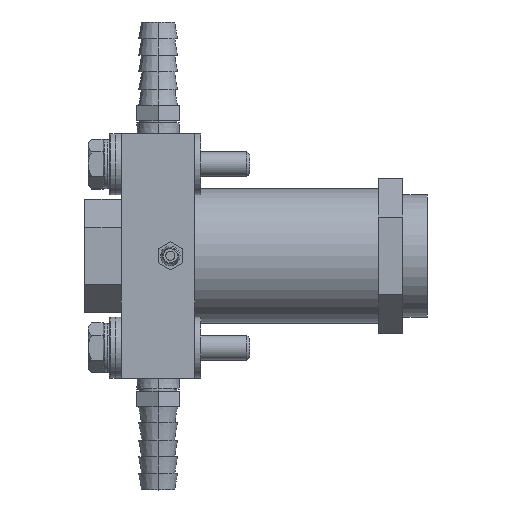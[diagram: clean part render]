
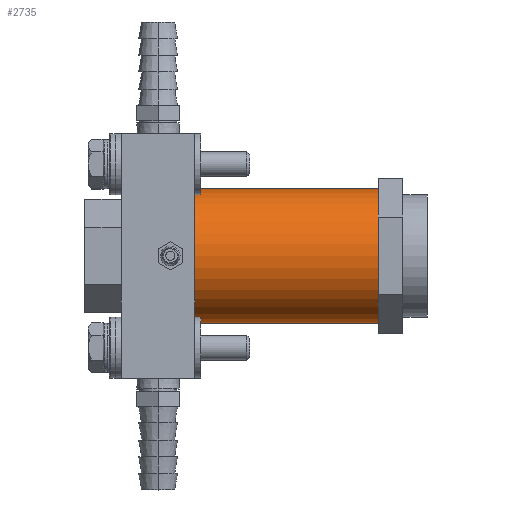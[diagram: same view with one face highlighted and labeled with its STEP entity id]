
A CAD part, top view. The second image highlights one B-rep face of the part: STEP entity #2735.
In plain terms, the highlighted cylindrical face has radius 17.462 mm (diameter 34.925 mm), a partial arc.
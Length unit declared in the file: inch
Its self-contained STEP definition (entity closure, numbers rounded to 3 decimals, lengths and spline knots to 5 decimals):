
#2665=CARTESIAN_POINT('',(-0.5,0.,0.));
#2666=DIRECTION('',(1.,0.,0.));
#2667=DIRECTION('',(0.,1.,0.));
#2668=AXIS2_PLACEMENT_3D('',#2665,#2666,#2667);
#2670=DIRECTION('',(1.,0.,0.));
#2671=VECTOR('',#2670,1.875);
#2672=CARTESIAN_POINT('',(-2.375,-0.6875,0.));
#2673=LINE('',#2672,#2671);
#2674=DIRECTION('',(1.,0.,0.));
#2675=VECTOR('',#2674,1.875);
#2676=CARTESIAN_POINT('',(-2.375,0.6875,0.));
#2677=LINE('',#2676,#2675);
#2678=CARTESIAN_POINT('',(-2.375,0.,0.));
#2679=DIRECTION('',(-1.,0.,0.));
#2680=DIRECTION('',(0.,-1.,0.));
#2681=AXIS2_PLACEMENT_3D('',#2678,#2679,#2680);
#2688=CARTESIAN_POINT('',(-2.375,0.6875,0.));
#2689=CARTESIAN_POINT('',(-0.5,0.6875,0.));
#2690=VERTEX_POINT('',#2688);
#2691=VERTEX_POINT('',#2689);
#2692=CARTESIAN_POINT('',(-2.375,-0.6875,0.));
#2693=CARTESIAN_POINT('',(-0.5,-0.6875,0.));
#2694=VERTEX_POINT('',#2692);
#2695=VERTEX_POINT('',#2693);
#2723=CARTESIAN_POINT('',(-2.375,0.,0.));
#2724=DIRECTION('',(1.,0.,0.));
#2725=DIRECTION('',(0.,-1.,0.));
#2726=AXIS2_PLACEMENT_3D('',#2723,#2724,#2725);
#2727=CYLINDRICAL_SURFACE('',#2726,0.6875);
#2728=ORIENTED_EDGE('',*,*,#2718,.T.);
#2729=ORIENTED_EDGE('',*,*,#2707,.F.);
#2731=ORIENTED_EDGE('',*,*,#2730,.T.);
#2732=ORIENTED_EDGE('',*,*,#2703,.T.);
#2733=EDGE_LOOP('',(#2728,#2729,#2731,#2732));
#2734=FACE_OUTER_BOUND('',#2733,.F.);
#2669=CIRCLE('',#2668,0.6875);
#2682=CIRCLE('',#2681,0.6875);
#2703=EDGE_CURVE('',#2690,#2691,#2677,.T.);
#2707=EDGE_CURVE('',#2694,#2695,#2673,.T.);
#2718=EDGE_CURVE('',#2691,#2695,#2669,.T.);
#2730=EDGE_CURVE('',#2694,#2690,#2682,.T.);
#2735=ADVANCED_FACE('',(#2734),#2727,.T.);
